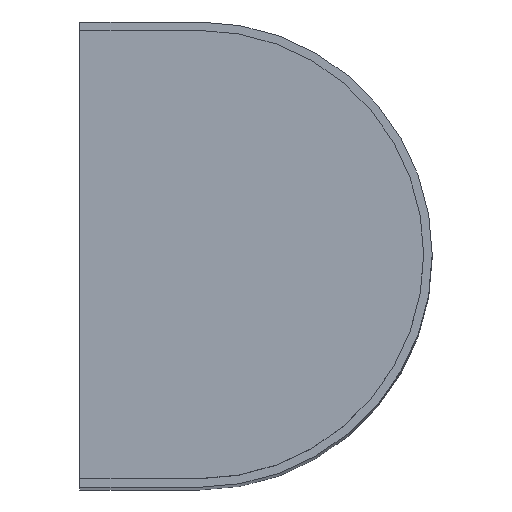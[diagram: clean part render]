
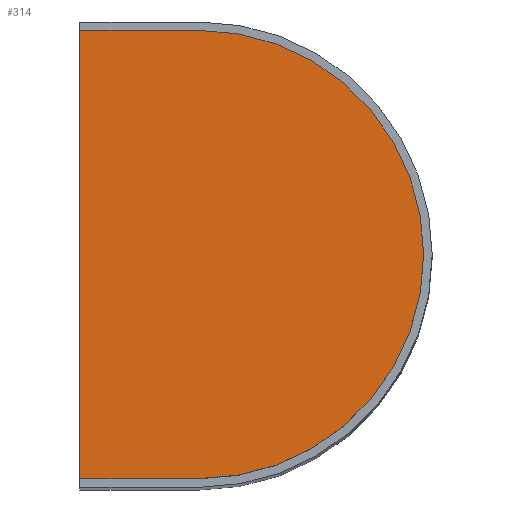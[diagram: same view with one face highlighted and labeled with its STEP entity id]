
A CAD part, top view. The second image highlights one B-rep face of the part: STEP entity #314.
In plain terms, the highlighted planar face has unit normal (0, 0, 1).
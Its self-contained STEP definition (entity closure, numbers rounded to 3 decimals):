
#27 = CARTESIAN_POINT ( 'NONE',  ( -68., 65.5, 249.5 ) ) ;
#30 = CARTESIAN_POINT ( 'NONE',  ( -103., -65.5, 249.5 ) ) ;
#37 = CARTESIAN_POINT ( 'NONE',  ( -103., 65.5, 249.5 ) ) ;
#40 = CARTESIAN_POINT ( 'NONE',  ( -68., -65.5, 249.5 ) ) ;
#63 = PLANE ( 'NONE',  #394 ) ;
#68 = DIRECTION ( 'NONE',  ( 1., 0., 0. ) ) ;
#69 = DIRECTION ( 'NONE',  ( 0., 0., 1. ) ) ;
#71 = CARTESIAN_POINT ( 'NONE',  ( -68., 0., 249.5 ) ) ;
#78 = DIRECTION ( 'NONE',  ( 1., 0., 0. ) ) ;
#89 = DIRECTION ( 'NONE',  ( 0., -1., 0. ) ) ;
#91 = CARTESIAN_POINT ( 'NONE',  ( -103., -65.5, 249.5 ) ) ;
#94 = CARTESIAN_POINT ( 'NONE',  ( -103., 65.5, 249.5 ) ) ;
#99 = DIRECTION ( 'NONE',  ( -1., 0., 0. ) ) ;
#101 = CARTESIAN_POINT ( 'NONE',  ( -68., 65.5, 249.5 ) ) ;
#111 = DIRECTION ( 'NONE',  ( 0., 0., 1. ) ) ;
#112 = DIRECTION ( 'NONE',  ( 1., 0., 0. ) ) ;
#185 = ORIENTED_EDGE ( 'NONE', *, *, #358, .T. ) ;
#186 = ORIENTED_EDGE ( 'NONE', *, *, #356, .T. ) ;
#194 = ORIENTED_EDGE ( 'NONE', *, *, #344, .T. ) ;
#196 = ORIENTED_EDGE ( 'NONE', *, *, #350, .T. ) ;
#225 = FACE_OUTER_BOUND ( 'NONE', #421, .T. ) ;
#259 = LINE ( 'NONE', #101, #262 ) ;
#262 = VECTOR ( 'NONE', #99, 1000. ) ;
#269 = LINE ( 'NONE', #94, #274 ) ;
#271 = LINE ( 'NONE', #91, #286 ) ;
#274 = VECTOR ( 'NONE', #89, 1000. ) ;
#286 = VECTOR ( 'NONE', #78, 1000. ) ;
#287 = CIRCLE ( 'NONE', #381, 65.5 ) ;
#314 = ADVANCED_FACE ( 'NONE', ( #225 ), #63, .T. ) ;
#344 = EDGE_CURVE ( 'NONE', #415, #405, #259, .T. ) ;
#350 = EDGE_CURVE ( 'NONE', #405, #412, #269, .T. ) ;
#356 = EDGE_CURVE ( 'NONE', #412, #399, #271, .T. ) ;
#358 = EDGE_CURVE ( 'NONE', #399, #415, #287, .T. ) ;
#381 = AXIS2_PLACEMENT_3D ( 'NONE', #71, #69, #68 ) ;
#394 = AXIS2_PLACEMENT_3D ( 'NONE', #451, #111, #112 ) ;
#399 = VERTEX_POINT ( 'NONE', #40 ) ;
#405 = VERTEX_POINT ( 'NONE', #37 ) ;
#412 = VERTEX_POINT ( 'NONE', #30 ) ;
#415 = VERTEX_POINT ( 'NONE', #27 ) ;
#421 = EDGE_LOOP ( 'NONE', ( #194, #196, #186, #185 ) ) ;
#451 = CARTESIAN_POINT ( 'NONE',  ( -68., 0., 249.5 ) ) ;
